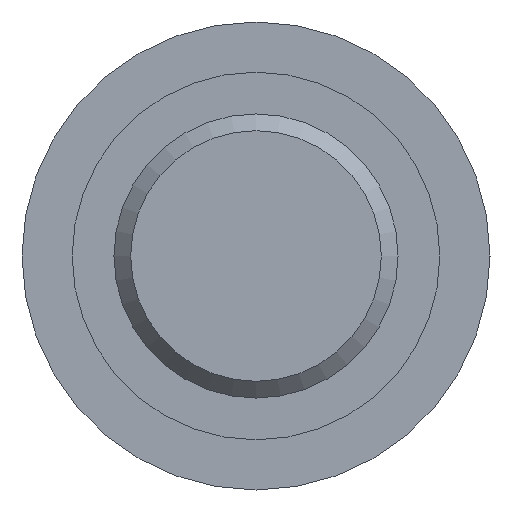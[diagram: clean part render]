
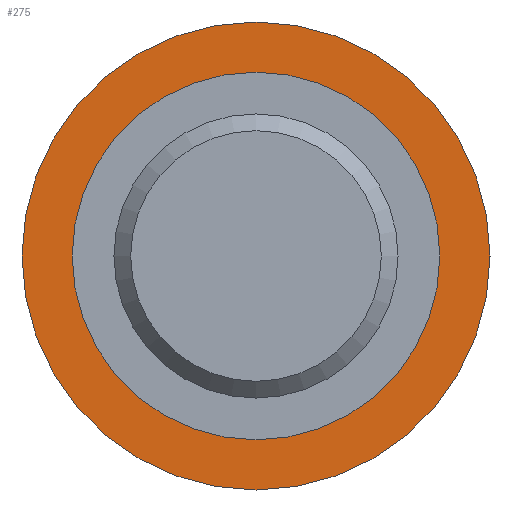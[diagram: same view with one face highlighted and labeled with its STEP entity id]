
A CAD part, left-side view. The second image highlights one B-rep face of the part: STEP entity #275.
In plain terms, the highlighted planar face has unit normal (-1, 0, 0).
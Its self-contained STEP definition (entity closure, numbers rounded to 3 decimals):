
#22=FACE_BOUND('',#78,.T.);
#32=PLANE('',#334);
#51=FACE_OUTER_BOUND('',#77,.T.);
#77=EDGE_LOOP('',(#236));
#78=EDGE_LOOP('',(#237));
#124=CIRCLE('',#333,11.);
#125=CIRCLE('',#335,14.);
#146=VERTEX_POINT('',#501);
#147=VERTEX_POINT('',#505);
#176=EDGE_CURVE('',#146,#146,#124,.T.);
#178=EDGE_CURVE('',#147,#147,#125,.T.);
#236=ORIENTED_EDGE('',*,*,#178,.F.);
#237=ORIENTED_EDGE('',*,*,#176,.T.);
#275=ADVANCED_FACE('',(#51,#22),#32,.T.);
#333=AXIS2_PLACEMENT_3D('',#502,#419,#420);
#334=AXIS2_PLACEMENT_3D('',#504,#422,#423);
#335=AXIS2_PLACEMENT_3D('',#506,#424,#425);
#419=DIRECTION('center_axis',(1.,0.,0.));
#420=DIRECTION('ref_axis',(0.,0.,-1.));
#422=DIRECTION('center_axis',(-1.,0.,0.));
#423=DIRECTION('ref_axis',(0.,0.,1.));
#424=DIRECTION('center_axis',(1.,0.,0.));
#425=DIRECTION('ref_axis',(0.,0.,-1.));
#501=CARTESIAN_POINT('',(19.,-11.,0.));
#502=CARTESIAN_POINT('Origin',(19.,0.,0.));
#504=CARTESIAN_POINT('Origin',(19.,14.,0.));
#505=CARTESIAN_POINT('',(19.,-14.,0.));
#506=CARTESIAN_POINT('Origin',(19.,0.,0.));
